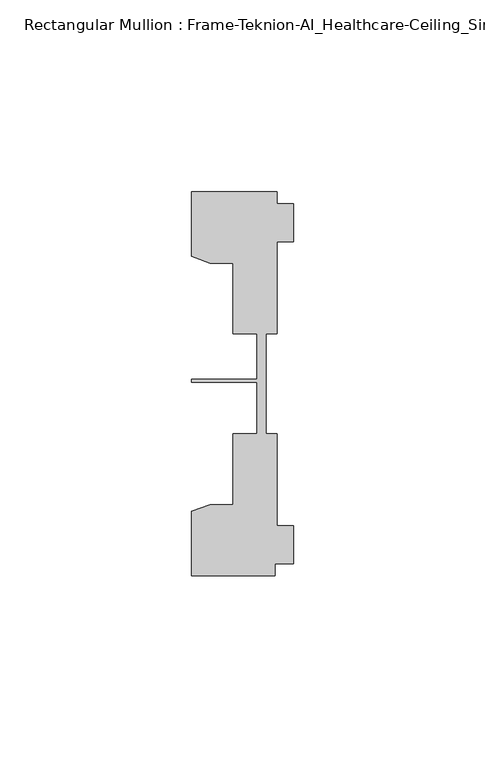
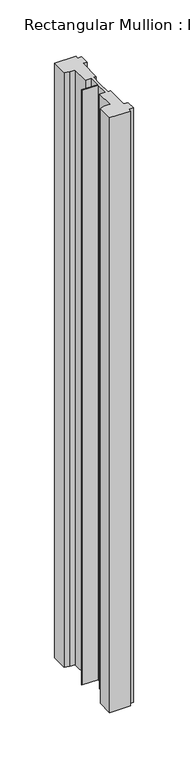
"""IFC4 building model written with IfcOpenShell, lengths in millimetres: member geometry, Rectangular Mullion : Frame-Teknion-AI_Healthcare-Ceiling_Single_Channel."""

import ifcopenshell
import ifcopenshell.guid

model = None  # the IFC model being written
_history = None  # IfcOwnerHistory: only IFC2X3 demands one
_inside = {}  # id of a spatial element -> (the spatial element, [elements in it])
_under = {}  # id of a project, library or spatial element -> (it, [spatial elements below it])
_declared = {}  # id of a project -> (the project, [libraries it declares])
_typed = {}  # id of a type object -> (the type object, [elements of that type])
_made_of = {}  # id of a material, layer set ... -> (it, [elements and type objects made of it])


def new_model(schema):
    """Start an empty IFC model of exactly this schema.

    Asked for "IFC4X3", IfcOpenShell would pick the latest addendum, in which some entities
    have other attributes; the version numbers below select the first issue.
    IFC2X3 requires an IfcOwnerHistory on every rooted entity: one is made here for all.
    """
    global model, _history
    if schema == "IFC4X3":
        model = ifcopenshell.file(schema_version=(4, 3, 0, 0))
    else:
        model = ifcopenshell.file(schema=schema)
    _inside.clear()
    _under.clear()
    _declared.clear()
    _typed.clear()
    _made_of.clear()
    _history = None
    if model.schema == "IFC2X3":
        org = make("IfcOrganization", Name="unknown")
        user = make(
            "IfcPersonAndOrganization",
            ThePerson=make("IfcPerson", FamilyName="unknown"),
            TheOrganization=org,
        )
        app = make(
            "IfcApplication",
            ApplicationDeveloper=org,
            Version="unknown",
            ApplicationFullName="unknown",
            ApplicationIdentifier="unknown",
        )
        _history = make(
            "IfcOwnerHistory",
            OwningUser=user,
            OwningApplication=app,
            ChangeAction="ADDED",
            CreationDate=0,
        )
    return model


def make(cls, **values):
    """One entity of the class cls with the attributes given. An attribute that is None is left unset."""
    return model.create_entity(
        cls, **{name: value for name, value in values.items() if value is not None}
    )


def rooted(cls, **values):
    """An entity with a GlobalId (a new one), such as an element, a storey or a relation."""
    return make(cls, GlobalId=ifcopenshell.guid.new(), OwnerHistory=_history, **values)


def si_unit(unit_type, name, prefix=None):
    """IfcSIUnit, for example si_unit("LENGTHUNIT", "METRE", prefix="MILLI")."""
    return make("IfcSIUnit", UnitType=unit_type, Prefix=prefix, Name=name)


def assignment(units):
    """IfcUnitAssignment: the units of a project."""
    return None if units is None else make("IfcUnitAssignment", Units=units)


def point(xyz):
    """IfcCartesianPoint."""
    return None if xyz is None else make("IfcCartesianPoint", Coordinates=xyz)


def direction(xyz):
    """IfcDirection."""
    return None if xyz is None else make("IfcDirection", DirectionRatios=xyz)


def frame(location, z_axis=None, x_axis=None):
    """IfcAxis2Placement3D, a coordinate frame: its origin and axes. An axis left out is left unset."""
    return make(
        "IfcAxis2Placement3D",
        Location=point(location),
        Axis=direction(z_axis),
        RefDirection=direction(x_axis),
    )


def origin():
    """The frame at (0, 0, 0) with its axes left unset."""
    return frame((0.0, 0.0, 0.0))


def place(relative_to, where):
    """IfcLocalPlacement: puts the frame where relative to a parent placement (None: the world)."""
    return make(
        "IfcLocalPlacement", PlacementRelTo=relative_to, RelativePlacement=where
    )


def context(
    kind, dimensions, precision=None, world=None, true_north=None, identifier=None
):
    """IfcGeometricRepresentationContext, for example the 3D "Model" context."""
    return make(
        "IfcGeometricRepresentationContext",
        ContextIdentifier=identifier,
        ContextType=kind,
        CoordinateSpaceDimension=dimensions,
        Precision=precision,
        WorldCoordinateSystem=world,
        TrueNorth=true_north,
    )


def project(units=None, contexts=None):
    """IfcProject with its units and contexts."""
    return rooted(
        "IfcProject",
        Name="project",
        RepresentationContexts=contexts,
        UnitsInContext=assignment(units),
    )


def spatial(cls, under=None, at=None, **own):
    """A site, building, storey or space (cls), placed at a placement, below another one or the project."""
    s = rooted(cls, ObjectPlacement=at, **own)
    if under is not None:
        _under.setdefault(under.id(), (under, []))[1].append(s)
    return s


def polyline(points):
    """IfcPolyline through the points."""
    return make("IfcPolyline", Points=[point(p) for p in points])


def outline(outer, holes=None, kind="AREA"):
    """IfcArbitraryClosedProfileDef: a profile drawn as a closed curve; with holes, ...WithVoids."""
    if holes is None:
        return make("IfcArbitraryClosedProfileDef", ProfileType=kind, OuterCurve=outer)
    return make(
        "IfcArbitraryProfileDefWithVoids",
        ProfileType=kind,
        OuterCurve=outer,
        InnerCurves=holes,
    )


def extrude(swept, where, along, depth):
    """IfcExtrudedAreaSolid: the profile swept, set in the frame where, extruded along a direction by depth."""
    return make(
        "IfcExtrudedAreaSolid",
        SweptArea=swept,
        Position=where,
        ExtrudedDirection=direction(along),
        Depth=depth,
    )


def shape(context_of_items, identifier, shape_type, items):
    """IfcShapeRepresentation: the items that make up one representation, for example the "Body"."""
    return make(
        "IfcShapeRepresentation",
        ContextOfItems=context_of_items,
        RepresentationIdentifier=identifier,
        RepresentationType=shape_type,
        Items=items,
    )


def source(mapping_origin, context_of_items, identifier, shape_type, items):
    """IfcRepresentationMap: a shape defined once, which mapped items show again and again."""
    return make(
        "IfcRepresentationMap",
        MappingOrigin=mapping_origin,
        MappedRepresentation=shape(context_of_items, identifier, shape_type, items),
    )


def transform(
    local_origin,
    x_axis=None,
    y_axis=None,
    z_axis=None,
    scale=None,
    scale2=None,
    scale3=None,
    uniform=True,
):
    """IfcCartesianTransformationOperator3D, or its non-uniform kind. x_axis, y_axis, z_axis: its Axis1, 2, 3."""
    if uniform:
        return make(
            "IfcCartesianTransformationOperator3D",
            Axis1=direction(x_axis),
            Axis2=direction(y_axis),
            LocalOrigin=point(local_origin),
            Scale=scale,
            Axis3=direction(z_axis),
        )
    return make(
        "IfcCartesianTransformationOperator3DnonUniform",
        Axis1=direction(x_axis),
        Axis2=direction(y_axis),
        LocalOrigin=point(local_origin),
        Scale=scale,
        Axis3=direction(z_axis),
        Scale2=scale2,
        Scale3=scale3,
    )


def mapped(mapping_source, mapping_target):
    """IfcMappedItem: shows the shape of a source again, moved by a transform."""
    return make(
        "IfcMappedItem", MappingSource=mapping_source, MappingTarget=mapping_target
    )


def made_of(thing, what):
    """Note that an element or type object is made of a material, layer set ...; save() writes the relation."""
    if what is not None:
        _made_of.setdefault(what.id(), (what, []))[1].append(thing)
    return thing


def element(
    cls,
    number,
    at=None,
    inside=None,
    cuts=None,
    type_object=None,
    material=None,
    context=None,
    identifier="Body",
    shape_type=None,
    held_by="IfcProductDefinitionShape",
    body=None,
    shapes=None,
    **own,
):
    """One element of the class cls, such as IfcWall. Its Tag is "e" and its number.

    at: its placement. inside: the storey or other place that contains it. cuts: it is an
    opening in that element (IfcRelVoidsElement). A single representation is given by context,
    identifier, shape_type and body (its items); several are given by shapes. held_by: the class
    of the entity that holds the representations. save() writes the other relations.
    """
    e = rooted(cls, Tag="e%d" % number, ObjectPlacement=at, **own)
    if body is not None:
        shapes = [shape(context, identifier, shape_type, body)]
    if shapes is not None:
        e.Representation = make(held_by, Representations=shapes)
    if inside is not None:
        _inside.setdefault(inside.id(), (inside, []))[1].append(e)
    if cuts is not None:
        rooted(
            "IfcRelVoidsElement", RelatingBuildingElement=cuts, RelatedOpeningElement=e
        )
    if type_object is not None:
        _typed.setdefault(type_object.id(), (type_object, []))[1].append(e)
    return made_of(e, material)


def aggregate(whole, parts):
    """IfcRelAggregates: a whole, such as a stair, and the parts it consists of."""
    return rooted("IfcRelAggregates", RelatingObject=whole, RelatedObjects=parts)


def save(model, path):
    """Write the relations noted so far, then the file.

    IfcRelAggregates (storeys below a building ...), IfcRelContainedInSpatialStructure (elements
    in a storey), IfcRelDefinesByType, IfcRelAssociatesMaterial and IfcRelDeclares: one each for
    every whole, place, type object, material and project.
    """
    for whole, parts in _under.values():
        aggregate(whole, parts)
    for where, things in _inside.values():
        rooted(
            "IfcRelContainedInSpatialStructure",
            RelatedElements=things,
            RelatingStructure=where,
        )
    for kind, things in _typed.values():
        rooted("IfcRelDefinesByType", RelatedObjects=things, RelatingType=kind)
    for what, things in _made_of.values():
        rooted("IfcRelAssociatesMaterial", RelatedObjects=things, RelatingMaterial=what)
    for by, libraries in _declared.values():
        rooted("IfcRelDeclares", RelatingContext=by, RelatedDefinitions=libraries)
    model.write(path)


def rectangular_mullion_frame_teknion_ai_healthcare_ceiling_91a9f568(model_context):
    return source(origin(), model_context, "Body", "SweptSolid", [
        extrude(outline(polyline([(-26.4921999, -34.0201677), (-21.6625199, -32.2880982), (-15.6737764, -32.2880982), (-15.6737764, -13.9110722), (-9.4507761, -13.9110722), (-9.4507761, -0.4036528), (-26.4921999, -0.4036528), (-26.4921999, 0.4036528), (-9.4507761, 0.4036528), (-9.4507761, 12.2509301), (-15.6737764, 12.2509301), (-15.6737764, 30.6279561), (-21.6625199, 30.6279561), (-26.4921999, 32.3600207), (-26.4921999, 49.1699293), (-4.2672007, 49.1699293), (-4.2672007, 46.1219322), (0.0, 46.1219322), (0.0, 36.1219249), (-4.2672007, 36.1219249), (-4.2672007, 12.2509301), (-7.1647766, 12.2509301), (-7.1647766, -0.0814804), (-7.1647766, -13.9110722), (-4.2672007, -13.9110722), (-4.2672007, -37.7820716), (0.0, -37.7820716), (0.0, -47.782071), (-4.7752002, -47.782071), (-4.7752002, -50.8315128), (-26.4921999, -50.8315128), (-26.4921999, -34.0201677)])), frame((0.0, 0.0, -660.4), z_axis=(0.0, 0.0, 1.0), x_axis=(1.0, 0.0, 0.0)), (0.0, 0.0, 1.0), 660.4),
    ])


if __name__ == "__main__":
    model = new_model("IFC4")
    model_context = context("Model", 3, world=origin())
    ifc_project = project(units=[si_unit("LENGTHUNIT", "METRE", prefix="MILLI")], contexts=[model_context])
    site = spatial("IfcSite", under=ifc_project)
    building = spatial("IfcBuilding", under=site)
    placement = place(None, origin())
    rectangular_mullion_frame_teknion_ai_healthcare_ceiling_shape = rectangular_mullion_frame_teknion_ai_healthcare_ceiling_91a9f568(model_context)
    element("IfcMember", 1, ObjectType="Rectangular Mullion : Frame-Teknion-AI_Healthcare-Ceiling_Single_Channel", at=placement, inside=building, context=model_context, shape_type="MappedRepresentation", body=[
        mapped(rectangular_mullion_frame_teknion_ai_healthcare_ceiling_shape, transform((0.0, 0.0, 0.0), x_axis=(1.0, 0.0, 0.0), y_axis=(0.0, 1.0, 0.0), z_axis=(0.0, 0.0, 1.0))),
    ])
    save(model, "model.ifc")
